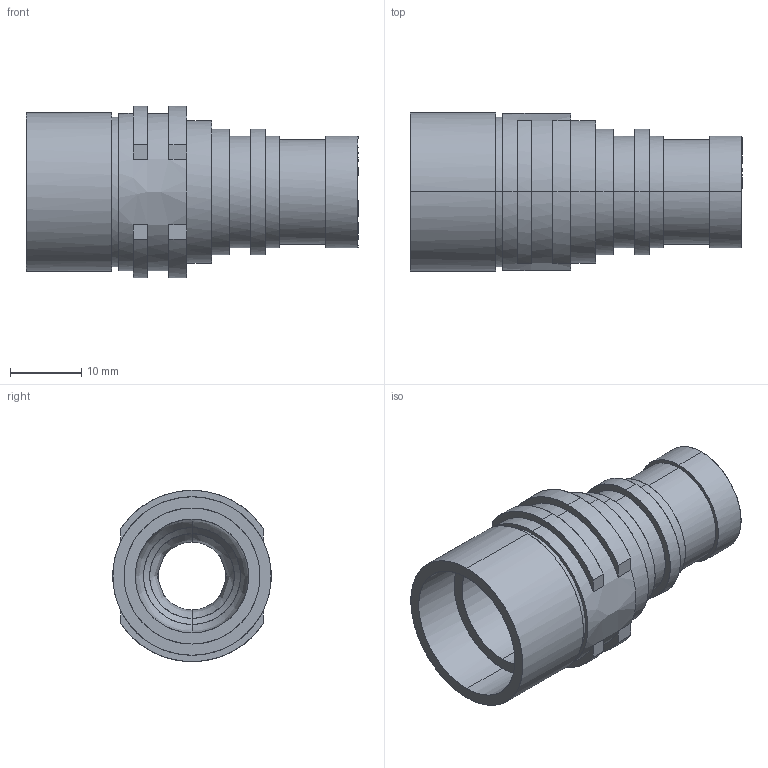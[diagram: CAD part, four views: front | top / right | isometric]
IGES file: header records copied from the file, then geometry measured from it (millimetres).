
Start section: Comment
Global section: file name: 70-19.05RU12.7-P.igs; native system:  By Spatial Corp.; preprocessor: XPlus GENERIC/IGES 3.0; author: Author; organization: Title; date: 20100222.113522; units: inch
Bounding box: 46.5 x 22.15 x 24 mm (x, y, z)
Surface area: 5778.2 mm2 (no closed solid volume)
Topology: 0 solids, 0 shells, 67 faces, 308 edges, 308 vertices
Faces by surface type: bspline 67
